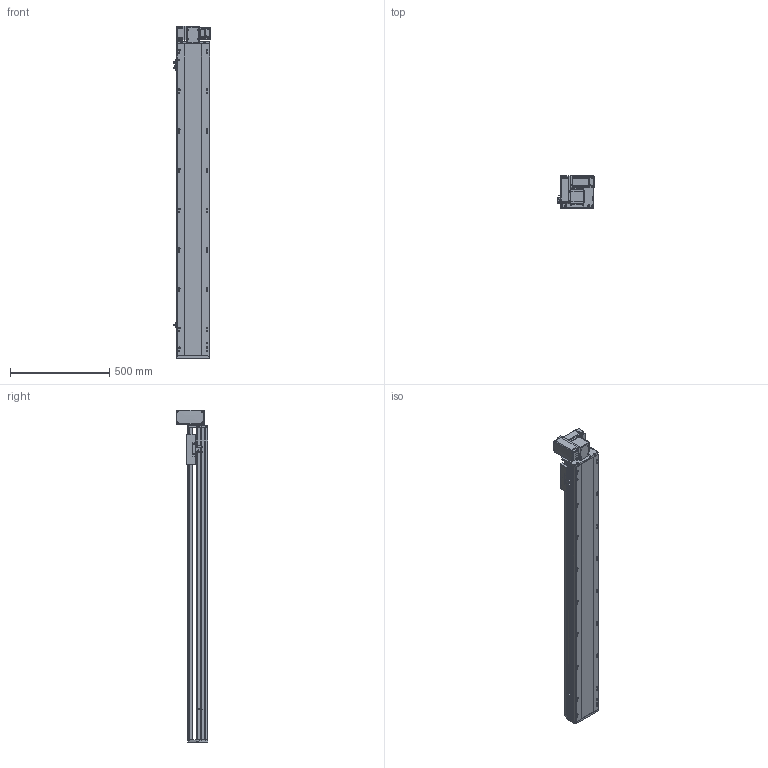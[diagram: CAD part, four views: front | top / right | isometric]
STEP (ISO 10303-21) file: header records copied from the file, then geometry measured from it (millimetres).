
FILE_DESCRIPTION (( 'STEP AP214' ), '1' );
FILE_NAME ('RTB17S-XX-1300-LW-M40-C4.STEP', '2025-12-11T07:06:35', ( '' ), ( '' ), 'SwSTEP 2.0', 'SolidWorks 2018', '' );
FILE_SCHEMA (( 'AUTOMOTIVE_DESIGN' ));
Length unit declared in the file: millimetre
Products named in the file (14): RTB17S-L-001耜醱啣^RTB17S-XX-XX-LW-M40-C4; RTB14-L-018P^RTB17S-LW-々湍釱蚾饜-400W_RTB17S-XX-XX-LW-M40-C4; RTB17S-LW-々湍釱蚾饜-400W^RTB17S-XX-XX-LW-M40-C4; RTB17S-L-004佪裝蹟譫蟀諉釱^RTB17S-XX-XX-LW-M40-C4; OMRON EE-SX672 传感器^RTB17S-XX-XX-LW-M40-C4; RTB14-L-017P^RTB17S-LW-々湍釱蚾饜-400W_RTB17S-XX-XX-LW-M40-C4; RTB14-L-008-M20--萇儂啣^RTB17S-LW-々湍釱蚾饜-400W_RTB17S-XX-XX-LW-M40-C4; RTB17S-L-007奻裔^RTB17S-XX-XX-LW-M40-C4; RTB17-R-011菁釱^RTB17S-XX-XX-LW-M40-C4; RTB17S-L-014-T20--々湍釱^RTB17S-LW-々湍釱蚾饜-400W_RTB17S-XX-XX-LW-M40-C4; RTH13-BL-012覜茼え俋离^RTB17S-XX-XX-LW-M40-C4; RTB17S-XX-1300-LW-M40-C4; RTB14-L-005P--轴承塑胶压盖^RTB17S-LW-皮带座装配-400W_RTB17S-XX-XX-LW-M40-C4; 400W侜督萇儂^RTB17S-XX-XX-LW-M40-C4
Assembly tree (16 placements, depth 3):
  RTB17S-XX-1300-LW-M40-C4
    RTB17-R-011菁釱^RTB17S-XX-XX-LW-M40-C4
    RTB17S-L-007奻裔^RTB17S-XX-XX-LW-M40-C4
    OMRON EE-SX672 传感器^RTB17S-XX-XX-LW-M40-C4  x3
    RTB17S-L-001耜醱啣^RTB17S-XX-XX-LW-M40-C4
    400W侜督萇儂^RTB17S-XX-XX-LW-M40-C4
    RTB17S-L-004佪裝蹟譫蟀諉釱^RTB17S-XX-XX-LW-M40-C4
    RTH13-BL-012覜茼え俋离^RTB17S-XX-XX-LW-M40-C4
    RTB17S-LW-々湍釱蚾饜-400W^RTB17S-XX-XX-LW-M40-C4
      RTB17S-L-014-T20--々湍釱^RTB17S-LW-々湍釱蚾饜-400W_RTB17S-XX-XX-LW-M40-C4
      RTB14-L-005P--轴承塑胶压盖^RTB17S-LW-皮带座装配-400W_RTB17S-XX-XX-LW-M40-C4
      RTB14-L-008-M20--萇儂啣^RTB17S-LW-々湍釱蚾饜-400W_RTB17S-XX-XX-LW-M40-C4
      RTB14-L-017P^RTB17S-LW-々湍釱蚾饜-400W_RTB17S-XX-XX-LW-M40-C4  x2
      RTB14-L-018P^RTB17S-LW-々湍釱蚾饜-400W_RTB17S-XX-XX-LW-M40-C4
Bounding box: 186 x 160.5 x 1672.5 mm (x, y, z)
Volume: 14818216.7 mm3; surface area: 1765751.6 mm2
Topology: 15 solids, 15 shells, 2237 faces, 6195 edges, 4041 vertices
Faces by surface type: plane 1072, cylinder 717, bspline 301, cone 139, torus 8
Entity records: 64169 total; most frequent: CARTESIAN_POINT 18000, ORIENTED_EDGE 9234, DIRECTION 8576, EDGE_CURVE 4617, VERTEX_POINT 3029, AXIS2_PLACEMENT_3D 2959, LINE 2658, VECTOR 2658
